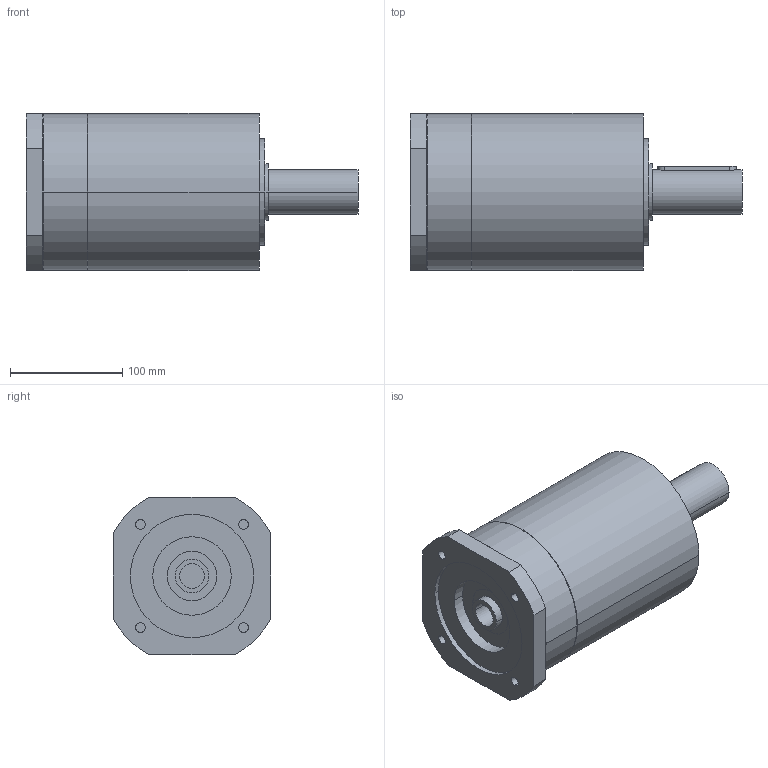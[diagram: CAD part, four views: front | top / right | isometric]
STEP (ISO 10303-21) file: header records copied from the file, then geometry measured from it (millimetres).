
FILE_DESCRIPTION(('CoCreate Modeling STEP Export'),'2;1');
FILE_NAME('GPR150_ig-9-12-16-20-28-35_40_B14_22_P04.stp','2014-08-26T15:30:35',(''),(''),'CoCreate Modeling STEP processor for AP214 (Solid Model)','CoCreate Modeling 16.00C 25-Feb-2009 (C) Parametric Technology GmbH','');
FILE_SCHEMA(('AUTOMOTIVE_DESIGN { 1 0 10303 214 1 1 1 1 }'));
Length unit declared in the file: millimetre
Products named in the file (2): GPR150_ig-9-12-16-20-28-35_40_B14_22_P04
Assembly tree (1 placements, depth 2):
  GPR150_ig-9-12-16-20-28-35_40_B14_22_P04
    GPR150_ig-9-12-16-20-28-35_40_B14_22_P04
Bounding box: 296 x 140 x 140 mm (x, y, z)
Volume: 3267041.3 mm3; surface area: 157252.6 mm2
Topology: 1 solids, 1 shells, 89 faces, 236 edges, 162 vertices
Faces by surface type: cylinder 52, plane 31, cone 6
Entity records: 2396 total; most frequent: ORIENTED_EDGE 468, CARTESIAN_POINT 450, DIRECTION 324, EDGE_CURVE 234, VERTEX_POINT 162, AXIS2_PLACEMENT_3D 124, EDGE_LOOP 112, FACE_OUTER_BOUND 89
